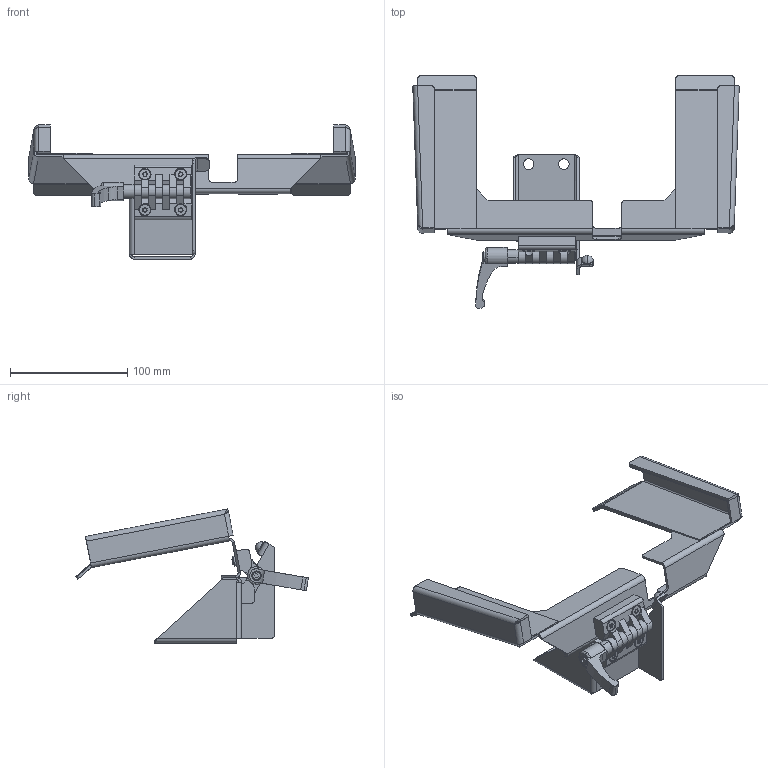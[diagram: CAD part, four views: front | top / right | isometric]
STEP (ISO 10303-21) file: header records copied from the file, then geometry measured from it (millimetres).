
FILE_DESCRIPTION (( 'STEP AP214' ), '1' );
FILE_NAME ('Wandhalterung für HBG 10Zoll Var.05.STEP', '2015-03-03T06:58:48', ( 'SIGMATEK GmbH & Co KG' ), ( 'SIGMATEK GmbH & Co KG' ), 'SwSTEP 2.0', 'SolidWorks 2013', '' );
FILE_SCHEMA (( 'AUTOMOTIVE_DESIGN' ));
Length unit declared in the file: millimetre
Products named in the file (1): Wandhalterung f黵 HBG 10Zoll Var.05
Bounding box: 278.17 x 198.76 x 114.43 mm (x, y, z)
Volume: 152905.6 mm3; surface area: 164614.7 mm2
Topology: 22 solids, 22 shells, 1145 faces, 2577 edges, 1497 vertices
Faces by surface type: cylinder 363, cone 330, plane 290, bspline 156, sphere 6
Entity records: 47201 total; most frequent: CARTESIAN_POINT 8756, DIRECTION 5722, ORIENTED_EDGE 5154, EDGE_CURVE 2577, AXIS2_PLACEMENT_3D 2257, VERTEX_POINT 1497, CIRCLE 1267, VECTOR 1208
